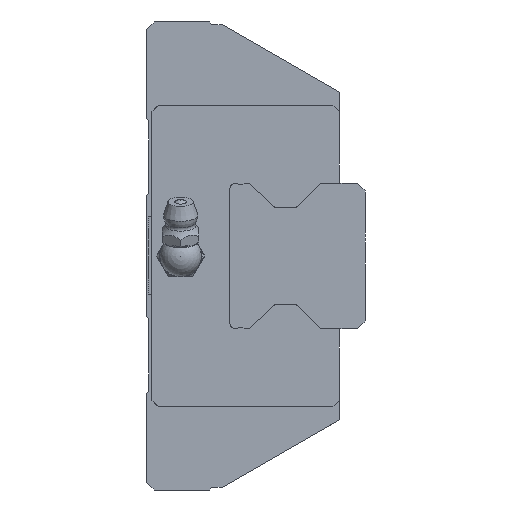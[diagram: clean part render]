
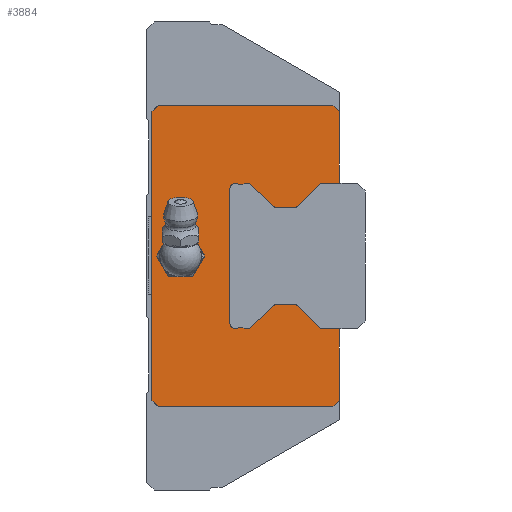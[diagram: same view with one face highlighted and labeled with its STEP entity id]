
A CAD part, left-side view. The second image highlights one B-rep face of the part: STEP entity #3884.
In plain terms, the highlighted planar face has unit normal (-1, 0, 0).
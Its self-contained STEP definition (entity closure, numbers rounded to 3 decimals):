
#153=CIRCLE('',#4206,3.);
#154=CIRCLE('',#4207,0.3);
#155=CIRCLE('',#4208,0.3);
#156=CIRCLE('',#4209,1.);
#157=CIRCLE('',#4210,1.);
#158=CIRCLE('',#4211,0.3);
#159=CIRCLE('',#4212,0.3);
#660=ORIENTED_EDGE('',*,*,#1590,.T.);
#661=ORIENTED_EDGE('',*,*,#1591,.T.);
#662=ORIENTED_EDGE('',*,*,#1580,.F.);
#663=ORIENTED_EDGE('',*,*,#1546,.F.);
#664=ORIENTED_EDGE('',*,*,#1542,.F.);
#665=ORIENTED_EDGE('',*,*,#1534,.F.);
#666=ORIENTED_EDGE('',*,*,#1568,.F.);
#667=ORIENTED_EDGE('',*,*,#1520,.F.);
#668=ORIENTED_EDGE('',*,*,#1557,.F.);
#669=ORIENTED_EDGE('',*,*,#1554,.F.);
#670=ORIENTED_EDGE('',*,*,#1582,.F.);
#671=ORIENTED_EDGE('',*,*,#1592,.T.);
#672=ORIENTED_EDGE('',*,*,#1593,.T.);
#673=ORIENTED_EDGE('',*,*,#1594,.F.);
#674=ORIENTED_EDGE('',*,*,#1595,.T.);
#675=ORIENTED_EDGE('',*,*,#1596,.F.);
#676=ORIENTED_EDGE('',*,*,#1597,.T.);
#677=ORIENTED_EDGE('',*,*,#1598,.T.);
#678=ORIENTED_EDGE('',*,*,#1599,.T.);
#679=ORIENTED_EDGE('',*,*,#1600,.T.);
#680=ORIENTED_EDGE('',*,*,#1601,.T.);
#681=ORIENTED_EDGE('',*,*,#1602,.T.);
#682=ORIENTED_EDGE('',*,*,#1603,.T.);
#683=ORIENTED_EDGE('',*,*,#1604,.T.);
#684=ORIENTED_EDGE('',*,*,#1605,.T.);
#685=ORIENTED_EDGE('',*,*,#1606,.T.);
#686=ORIENTED_EDGE('',*,*,#1607,.T.);
#687=ORIENTED_EDGE('',*,*,#1608,.F.);
#688=ORIENTED_EDGE('',*,*,#1609,.T.);
#689=ORIENTED_EDGE('',*,*,#1610,.F.);
#690=ORIENTED_EDGE('',*,*,#1611,.T.);
#1520=EDGE_CURVE('',#2018,#2019,#2393,.T.);
#1534=EDGE_CURVE('',#2031,#2032,#2407,.T.);
#1542=EDGE_CURVE('',#2032,#2038,#2414,.T.);
#1546=EDGE_CURVE('',#2038,#2040,#2418,.T.);
#1554=EDGE_CURVE('',#2047,#2048,#2426,.T.);
#1557=EDGE_CURVE('',#2048,#2018,#2429,.T.);
#1568=EDGE_CURVE('',#2019,#2031,#2435,.T.);
#1580=EDGE_CURVE('',#2040,#2057,#2445,.T.);
#1582=EDGE_CURVE('',#2063,#2047,#2447,.T.);
#1590=EDGE_CURVE('',#2070,#2070,#153,.T.);
#1591=EDGE_CURVE('',#2071,#2057,#2453,.T.);
#1592=EDGE_CURVE('',#2063,#2072,#2454,.T.);
#1593=EDGE_CURVE('',#2072,#2073,#2455,.T.);
#1594=EDGE_CURVE('',#2074,#2073,#154,.T.);
#1595=EDGE_CURVE('',#2074,#2075,#2456,.T.);
#1596=EDGE_CURVE('',#2076,#2075,#155,.T.);
#1597=EDGE_CURVE('',#2076,#2077,#2457,.T.);
#1598=EDGE_CURVE('',#2077,#2078,#2458,.T.);
#1599=EDGE_CURVE('',#2078,#2079,#2459,.T.);
#1600=EDGE_CURVE('',#2079,#2080,#2460,.T.);
#1601=EDGE_CURVE('',#2080,#2081,#156,.T.);
#1602=EDGE_CURVE('',#2081,#2082,#2461,.T.);
#1603=EDGE_CURVE('',#2082,#2083,#157,.T.);
#1604=EDGE_CURVE('',#2083,#2084,#2462,.T.);
#1605=EDGE_CURVE('',#2084,#2085,#2463,.T.);
#1606=EDGE_CURVE('',#2085,#2086,#2464,.T.);
#1607=EDGE_CURVE('',#2086,#2087,#2465,.T.);
#1608=EDGE_CURVE('',#2088,#2087,#158,.T.);
#1609=EDGE_CURVE('',#2088,#2089,#2466,.T.);
#1610=EDGE_CURVE('',#2090,#2089,#159,.T.);
#1611=EDGE_CURVE('',#2090,#2071,#2467,.T.);
#2018=VERTEX_POINT('',#5946);
#2019=VERTEX_POINT('',#5948);
#2031=VERTEX_POINT('',#5974);
#2032=VERTEX_POINT('',#5976);
#2038=VERTEX_POINT('',#5992);
#2040=VERTEX_POINT('',#5999);
#2047=VERTEX_POINT('',#6014);
#2048=VERTEX_POINT('',#6016);
#2057=VERTEX_POINT('',#6051);
#2063=VERTEX_POINT('',#6067);
#2070=VERTEX_POINT('',#6084);
#2071=VERTEX_POINT('',#6086);
#2072=VERTEX_POINT('',#6088);
#2073=VERTEX_POINT('',#6090);
#2074=VERTEX_POINT('',#6092);
#2075=VERTEX_POINT('',#6094);
#2076=VERTEX_POINT('',#6096);
#2077=VERTEX_POINT('',#6098);
#2078=VERTEX_POINT('',#6100);
#2079=VERTEX_POINT('',#6102);
#2080=VERTEX_POINT('',#6104);
#2081=VERTEX_POINT('',#6106);
#2082=VERTEX_POINT('',#6108);
#2083=VERTEX_POINT('',#6110);
#2084=VERTEX_POINT('',#6112);
#2085=VERTEX_POINT('',#6114);
#2086=VERTEX_POINT('',#6116);
#2087=VERTEX_POINT('',#6118);
#2088=VERTEX_POINT('',#6120);
#2089=VERTEX_POINT('',#6122);
#2090=VERTEX_POINT('',#6124);
#2393=LINE('',#5947,#2769);
#2407=LINE('',#5975,#2783);
#2414=LINE('',#5991,#2790);
#2418=LINE('',#5998,#2794);
#2426=LINE('',#6015,#2802);
#2429=LINE('',#6020,#2805);
#2435=LINE('',#6041,#2811);
#2445=LINE('',#6064,#2821);
#2447=LINE('',#6069,#2823);
#2453=LINE('',#6085,#2829);
#2454=LINE('',#6087,#2830);
#2455=LINE('',#6089,#2831);
#2456=LINE('',#6093,#2832);
#2457=LINE('',#6097,#2833);
#2458=LINE('',#6099,#2834);
#2459=LINE('',#6101,#2835);
#2460=LINE('',#6103,#2836);
#2461=LINE('',#6107,#2837);
#2462=LINE('',#6111,#2838);
#2463=LINE('',#6113,#2839);
#2464=LINE('',#6115,#2840);
#2465=LINE('',#6117,#2841);
#2466=LINE('',#6121,#2842);
#2467=LINE('',#6125,#2843);
#2769=VECTOR('',#4792,1000.);
#2783=VECTOR('',#4808,1000.);
#2790=VECTOR('',#4821,1000.);
#2794=VECTOR('',#4827,1000.);
#2802=VECTOR('',#4837,1000.);
#2805=VECTOR('',#4842,1000.);
#2811=VECTOR('',#4868,1000.);
#2821=VECTOR('',#4886,1000.);
#2823=VECTOR('',#4890,1000.);
#2829=VECTOR('',#4904,1000.);
#2830=VECTOR('',#4905,1000.);
#2831=VECTOR('',#4906,1000.);
#2832=VECTOR('',#4909,1000.);
#2833=VECTOR('',#4912,1000.);
#2834=VECTOR('',#4913,1000.);
#2835=VECTOR('',#4914,1000.);
#2836=VECTOR('',#4915,1000.);
#2837=VECTOR('',#4918,1000.);
#2838=VECTOR('',#4921,1000.);
#2839=VECTOR('',#4922,1000.);
#2840=VECTOR('',#4923,1000.);
#2841=VECTOR('',#4924,1000.);
#2842=VECTOR('',#4927,1000.);
#2843=VECTOR('',#4930,1000.);
#3122=EDGE_LOOP('',(#660));
#3123=EDGE_LOOP('',(#661,#662,#663,#664,#665,#666,#667,#668,#669,#670,#671,
#672,#673,#674,#675,#676,#677,#678,#679,#680,#681,#682,#683,#684,#685,#686,
#687,#688,#689,#690));
#3445=FACE_BOUND('',#3122,.T.);
#3446=FACE_BOUND('',#3123,.T.);
#3707=PLANE('',#4205);
#3884=ADVANCED_FACE('',(#3445,#3446),#3707,.F.);
#4205=AXIS2_PLACEMENT_3D('',#6082,#4900,#4901);
#4206=AXIS2_PLACEMENT_3D('',#6083,#4902,#4903);
#4207=AXIS2_PLACEMENT_3D('',#6091,#4907,#4908);
#4208=AXIS2_PLACEMENT_3D('',#6095,#4910,#4911);
#4209=AXIS2_PLACEMENT_3D('',#6105,#4916,#4917);
#4210=AXIS2_PLACEMENT_3D('',#6109,#4919,#4920);
#4211=AXIS2_PLACEMENT_3D('',#6119,#4925,#4926);
#4212=AXIS2_PLACEMENT_3D('',#6123,#4928,#4929);
#4792=DIRECTION('',(0.,0.707,0.707));
#4808=DIRECTION('',(0.,-0.707,0.707));
#4821=DIRECTION('',(0.,-1.,0.));
#4827=DIRECTION('',(0.,-0.707,-0.707));
#4837=DIRECTION('',(0.,0.707,-0.707));
#4842=DIRECTION('',(0.,1.,0.));
#4868=DIRECTION('',(0.,0.,1.));
#4886=DIRECTION('',(0.,0.,-1.));
#4890=DIRECTION('',(0.,0.,-1.));
#4900=DIRECTION('',(1.,0.,0.));
#4901=DIRECTION('',(0.,0.,-1.));
#4902=DIRECTION('',(1.,0.,0.));
#4903=DIRECTION('',(0.,0.,-1.));
#4904=DIRECTION('',(0.,-1.,0.));
#4905=DIRECTION('',(0.,1.,0.));
#4906=DIRECTION('',(0.,0.707,0.707));
#4907=DIRECTION('',(1.,0.,0.));
#4908=DIRECTION('',(0.,0.,-1.));
#4909=DIRECTION('',(0.,1.,0.));
#4910=DIRECTION('',(1.,0.,0.));
#4911=DIRECTION('',(0.,0.,-1.));
#4912=DIRECTION('',(0.,0.722,-0.692));
#4913=DIRECTION('',(0.,1.,0.));
#4914=DIRECTION('',(0.,0.707,0.707));
#4915=DIRECTION('',(0.,1.,0.));
#4916=DIRECTION('',(1.,0.,0.));
#4917=DIRECTION('',(0.,0.,-1.));
#4918=DIRECTION('',(0.,0.,1.));
#4919=DIRECTION('',(1.,0.,0.));
#4920=DIRECTION('',(0.,0.,-1.));
#4921=DIRECTION('',(0.,-1.,0.));
#4922=DIRECTION('',(0.,-0.707,0.707));
#4923=DIRECTION('',(0.,-1.,0.));
#4924=DIRECTION('',(0.,-0.722,-0.692));
#4925=DIRECTION('',(1.,0.,0.));
#4926=DIRECTION('',(0.,0.,-1.));
#4927=DIRECTION('',(0.,-1.,0.));
#4928=DIRECTION('',(1.,0.,0.));
#4929=DIRECTION('',(0.,0.,-1.));
#4930=DIRECTION('',(0.,-0.707,0.707));
#5946=CARTESIAN_POINT('',(-67.5,34.8,-29.));
#5947=CARTESIAN_POINT('',(-67.5,34.8,-29.));
#5948=CARTESIAN_POINT('',(-67.5,36.,-27.8));
#5974=CARTESIAN_POINT('',(-67.5,36.,27.8));
#5975=CARTESIAN_POINT('',(-67.5,36.,27.8));
#5976=CARTESIAN_POINT('',(-67.5,34.8,29.));
#5991=CARTESIAN_POINT('',(-67.5,34.8,29.));
#5992=CARTESIAN_POINT('',(-67.5,1.2,29.));
#5998=CARTESIAN_POINT('',(-67.5,1.2,29.));
#5999=CARTESIAN_POINT('',(-67.5,0.,27.8));
#6014=CARTESIAN_POINT('',(-67.5,0.,-27.8));
#6015=CARTESIAN_POINT('',(-67.5,0.,-27.8));
#6016=CARTESIAN_POINT('',(-67.5,1.2,-29.));
#6020=CARTESIAN_POINT('',(-67.5,1.2,-29.));
#6041=CARTESIAN_POINT('',(-67.5,36.,-27.8));
#6051=CARTESIAN_POINT('',(-67.5,0.,14.));
#6064=CARTESIAN_POINT('',(-67.5,0.,27.8));
#6067=CARTESIAN_POINT('',(-67.5,0.,-14.));
#6069=CARTESIAN_POINT('',(-67.5,0.,27.8));
#6082=CARTESIAN_POINT('',(-67.5,0.,0.));
#6083=CARTESIAN_POINT('',(-67.5,30.5,0.));
#6084=CARTESIAN_POINT('',(-67.5,30.5,-3.));
#6085=CARTESIAN_POINT('',(-67.5,3.6,14.));
#6086=CARTESIAN_POINT('',(-67.5,3.6,14.));
#6087=CARTESIAN_POINT('',(-67.5,-3.5,-14.));
#6088=CARTESIAN_POINT('',(-67.5,3.6,-14.));
#6089=CARTESIAN_POINT('',(-67.5,3.6,-14.));
#6090=CARTESIAN_POINT('',(-67.5,8.112,-9.488));
#6091=CARTESIAN_POINT('',(-67.5,8.324,-9.7));
#6092=CARTESIAN_POINT('',(-67.5,8.324,-9.4));
#6093=CARTESIAN_POINT('',(-67.5,8.324,-9.4));
#6094=CARTESIAN_POINT('',(-67.5,12.379,-9.4));
#6095=CARTESIAN_POINT('',(-67.5,12.379,-9.7));
#6096=CARTESIAN_POINT('',(-67.5,12.587,-9.483));
#6097=CARTESIAN_POINT('',(-67.5,12.587,-9.483));
#6098=CARTESIAN_POINT('',(-67.5,17.3,-14.));
#6099=CARTESIAN_POINT('',(-67.5,17.3,-14.));
#6100=CARTESIAN_POINT('',(-67.5,18.27,-14.));
#6101=CARTESIAN_POINT('',(-67.5,18.27,-14.));
#6102=CARTESIAN_POINT('',(-67.5,18.52,-13.75));
#6103=CARTESIAN_POINT('',(-67.5,18.52,-13.75));
#6104=CARTESIAN_POINT('',(-67.5,19.339,-13.75));
#6105=CARTESIAN_POINT('',(-67.5,20.,-13.));
#6106=CARTESIAN_POINT('',(-67.5,21.,-13.));
#6107=CARTESIAN_POINT('',(-67.5,21.,-13.));
#6108=CARTESIAN_POINT('',(-67.5,21.,13.));
#6109=CARTESIAN_POINT('',(-67.5,20.,13.));
#6110=CARTESIAN_POINT('',(-67.5,19.339,13.75));
#6111=CARTESIAN_POINT('',(-67.5,19.339,13.75));
#6112=CARTESIAN_POINT('',(-67.5,18.52,13.75));
#6113=CARTESIAN_POINT('',(-67.5,18.52,13.75));
#6114=CARTESIAN_POINT('',(-67.5,18.27,14.));
#6115=CARTESIAN_POINT('',(-67.5,18.27,14.));
#6116=CARTESIAN_POINT('',(-67.5,17.3,14.));
#6117=CARTESIAN_POINT('',(-67.5,17.3,14.));
#6118=CARTESIAN_POINT('',(-67.5,12.587,9.483));
#6119=CARTESIAN_POINT('',(-67.5,12.379,9.7));
#6120=CARTESIAN_POINT('',(-67.5,12.379,9.4));
#6121=CARTESIAN_POINT('',(-67.5,12.379,9.4));
#6122=CARTESIAN_POINT('',(-67.5,8.324,9.4));
#6123=CARTESIAN_POINT('',(-67.5,8.324,9.7));
#6124=CARTESIAN_POINT('',(-67.5,8.112,9.488));
#6125=CARTESIAN_POINT('',(-67.5,8.112,9.488));
